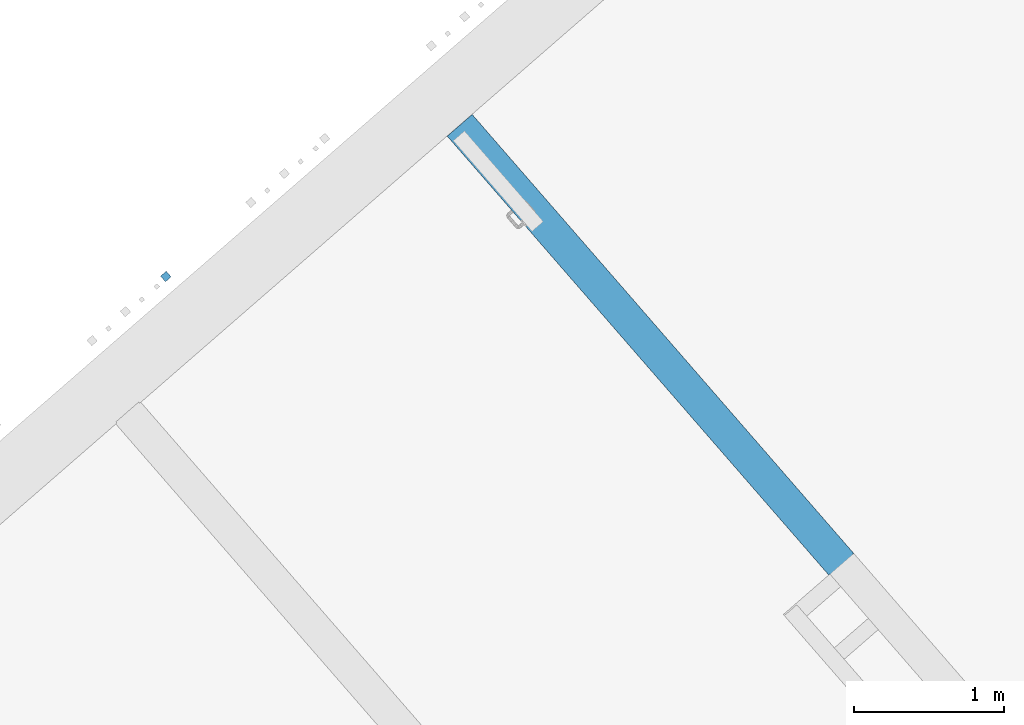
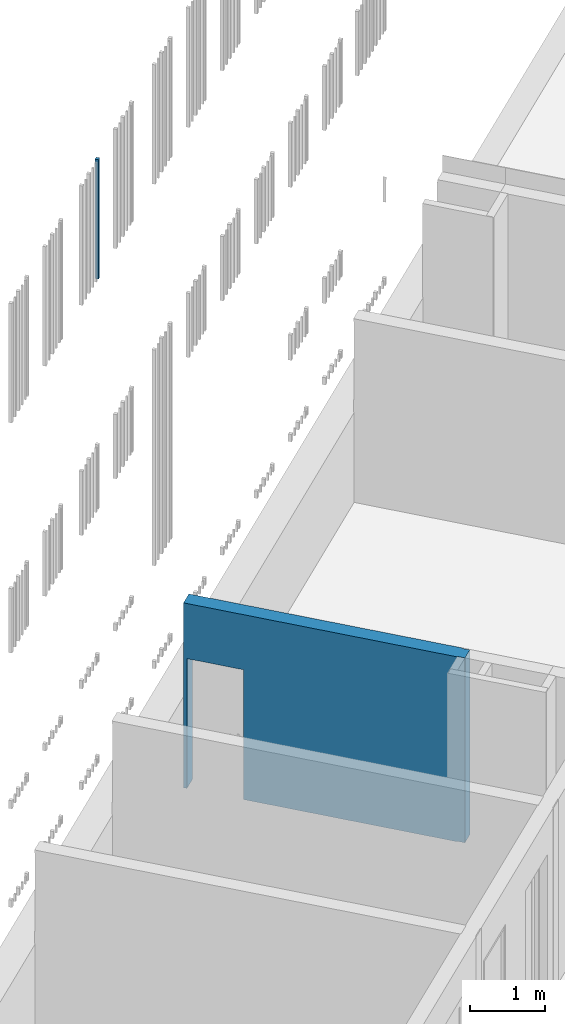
# One storey, part 54 of 124: 2 walls.
"""IFC2X3 building model written with IfcOpenShell, lengths in millimetres."""

from ifc_helpers import new_model, entity, si_unit, converted_unit, derived_unit, money_unit, direction, frame, origin_with_axes, place, context, subcontext, project, spatial, faceted_brep, material, material_list, type_object, element, save


model = new_model("IFC2X3")

# Units and contexts
model_context = context("Model", 3, precision=1e-05, world=origin_with_axes(), true_north=direction((0.0, 1.0)))
body_context = subcontext(model_context, "Body", "Model", "MODEL_VIEW")
ifc_project = project(units=[si_unit("LENGTHUNIT", "METRE", prefix="MILLI"), si_unit("AREAUNIT", "SQUARE_METRE"), si_unit("VOLUMEUNIT", "CUBIC_METRE"), converted_unit("PLANEANGLEUNIT", "DEGREE", entity("IfcPlaneAngleMeasure", 0.0174532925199), si_unit("PLANEANGLEUNIT", "RADIAN"), dimensions=[0, 0, 0, 0, 0, 0, 0]), si_unit("SOLIDANGLEUNIT", "STERADIAN"), money_unit("EUR"), converted_unit("TIMEUNIT", "Year", entity("IfcTimeMeasure", 31556926.0), si_unit("TIMEUNIT", "SECOND"), dimensions=[0, 0, 1, 0, 0, 0, 0]), si_unit("MASSUNIT", "GRAM", prefix="KILO"), si_unit("THERMODYNAMICTEMPERATUREUNIT", "DEGREE_CELSIUS"), si_unit("LUMINOUSINTENSITYUNIT", "LUMEN"), si_unit("ENERGYUNIT", "JOULE", prefix="MEGA"), derived_unit("THERMALCONDUCTANCEUNIT", [(si_unit("POWERUNIT", "WATT"), 1), (si_unit("LENGTHUNIT", "METRE"), -1), (si_unit("THERMODYNAMICTEMPERATUREUNIT", "KELVIN"), -1)]), derived_unit("SPECIFICHEATCAPACITYUNIT", [(si_unit("ENERGYUNIT", "JOULE"), 1), (si_unit("MASSUNIT", "GRAM", prefix="KILO"), -1), (si_unit("THERMODYNAMICTEMPERATUREUNIT", "KELVIN"), -1)]), derived_unit("MASSDENSITYUNIT", [(si_unit("MASSUNIT", "GRAM", prefix="KILO"), 1), (si_unit("VOLUMEUNIT", "CUBIC_METRE"), -1)])], contexts=[model_context])

# Site, building, storey
site_placement = place(None, origin_with_axes())
site = spatial("IfcSite", under=ifc_project, at=site_placement, Name="Site", CompositionType="ELEMENT")
building_placement = place(site_placement, origin_with_axes())
building = spatial("IfcBuilding", under=site, at=building_placement, Name="Building", CompositionType="ELEMENT")
storey_placement = place(building_placement, frame((0.0, 0.0, -1615.0), z_axis=(0.0, 0.0, 1.0), x_axis=(1.0, 0.0, 0.0)))
storey = spatial("IfcBuildingStorey", under=building, at=storey_placement, Name="0  korrus", CompositionType="ELEMENT", Elevation=-1615.0)

# Walls
ifc_material_1 = material(Name="Krohv - Lubjakivi")
ifc_material_2 = material(Name="Raudbetoon - Konstruktsioon")
ifc_material_list = material_list([ifc_material_1, ifc_material_2, ifc_material_1])
wall_type_1 = type_object("IfcWallType", Name="SS-10", PredefinedType="NOTDEFINED")
wall_1_placement = place(storey_placement, frame((152340.962336, 101771.412181, -20.0), z_axis=(0.0, 0.0, 1.0), x_axis=(0.656071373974, -0.754698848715, 0.0)))
element("IfcWall", 1, at=wall_1_placement, inside=storey, type_object=wall_type_1, material=ifc_material_list, Name="SS-10", context=body_context, shape_type="Brep", body=[
    faceted_brep([(49.0, 220.0, 2120.0), (49.0, 220.0, 20.0), (49.0, 220.0, 0.0), (0.0, 220.0, 0.0), (0.0, 220.0, 3020.0), (3869.00362787, 220.0, 3020.0), (3869.00362787, 220.0, 0.0), (849.0, 220.0, 0.0), (849.0, 220.0, 20.0), (849.0, 220.0, 2120.0), (49.0, 210.0, 2120.0), (49.0, 210.0, 20.0), (49.0, 210.0, 0.0), (0.0, 210.0, 0.0), (0.0, 210.0, 3020.0), (3869.00346429, 210.0, 3020.0), (3869.00346429, 210.0, 0.0), (849.0, 210.0, 0.0), (849.0, 210.0, 20.0), (849.0, 210.0, 2120.0)], [[[0, 1, 2, 3, 4, 5, 6, 7, 8, 9]], [[1, 0, 10, 11]], [[1, 11, 12, 2]], [[12, 13, 3, 2]], [[3, 13, 14, 4]], [[5, 4, 14, 15]], [[6, 5, 15, 16]], [[7, 6, 16, 17]], [[18, 8, 7, 17]], [[9, 8, 18, 19]], [[0, 9, 19, 10]], [[19, 18, 17, 16, 15, 14, 13, 12, 11, 10]]]),
    faceted_brep([(849.0, 110.0, 20.0), (849.0, 9.99999999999, 20.0), (849.0, 9.99999999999, 2120.0), (849.0, 210.0, 2120.0), (849.0, 210.0, 20.0), (849.0, 210.0, 0.0), (849.0, 9.99999999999, 0.0), (3979.00019285, 9.99999999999, 0.0), (3979.00019285, 9.99999999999, 3020.0), (0.0, 9.99999999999, 3020.0), (0.0, 9.99999999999, 0.0), (49.0, 9.99999999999, 0.0), (49.0, 9.99999999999, 20.0), (49.0, 9.99999999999, 2120.0), (49.0, 210.0, 2120.0), (49.0, 210.0, 20.0), (49.0, 210.0, 0.0), (0.0, 210.0, 0.0), (0.0, 210.0, 3020.0), (3979.00346431, 210.0, 3020.0), (3979.00346431, 210.0, 0.0), (49.0, 110.0, 20.0)], [[[0, 1, 2, 3, 4]], [[1, 0, 4, 5, 6]], [[2, 1, 6, 7, 8, 9, 10, 11, 12, 13]], [[3, 2, 13, 14]], [[5, 4, 3, 14, 15, 16, 17, 18, 19, 20]], [[20, 7, 6, 5]], [[19, 8, 7, 20]], [[18, 9, 8, 19]], [[10, 9, 18, 17]], [[10, 17, 16, 11]], [[21, 12, 11, 16, 15]], [[13, 12, 21, 15, 14]]]),
    faceted_brep([(49.0, 10.0, 2120.0), (49.0, 10.0, 20.0), (49.0, 9.99999999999, 0.0), (0.0, 9.99999999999, 0.0), (0.0, 9.99999999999, 3020.0), (3869.00019284, 9.99999999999, 3020.0), (3869.00019284, 9.99999999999, 0.0), (849.0, 9.99999999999, 0.0), (849.0, 10.0, 20.0), (849.0, 10.0, 2120.0), (49.0, 0.0, 2120.0), (49.0, 0.0, 20.0), (49.0, 0.0, 0.0), (0.0, 0.0, 0.0), (0.0, 0.0, 3020.0), (3869.00002926, 0.0, 3020.0), (3869.00002926, 0.0, 0.0), (849.0, 0.0, 0.0), (849.0, 0.0, 20.0), (849.0, 0.0, 2120.0)], [[[0, 1, 2, 3, 4, 5, 6, 7, 8, 9]], [[1, 0, 10, 11]], [[1, 11, 12, 2]], [[12, 13, 3, 2]], [[3, 13, 14, 4]], [[5, 4, 14, 15]], [[6, 5, 15, 16]], [[7, 6, 16, 17]], [[18, 8, 7, 17]], [[9, 8, 18, 19]], [[0, 9, 19, 10]], [[19, 18, 17, 16, 15, 14, 13, 12, 11, 10]]]),
])
ifc_material_3 = material(Name="Site specified")
wall_type_2 = type_object("IfcWallType", Name="Puitfassaadi ribistik", PredefinedType="NOTDEFINED")
wall_2_placement = place(storey_placement, frame((150469.574562, 100837.621401, 9530.0), z_axis=(0.0, 0.0, 1.0), x_axis=(0.754709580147, 0.656059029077, 0.0)))
element("IfcWall", 2, at=wall_2_placement, inside=storey, type_object=wall_type_2, material=ifc_material_3, Name="Site specified", context=body_context, shape_type="Brep", body=[
    faceted_brep([(25.0, 25.0, 1950.0), (25.0, 25.0, 0.0), (-25.0, 25.0, 0.0), (-25.0, 25.0, 1950.0), (25.0, -25.0, 1950.0), (25.0, -25.0, 0.0), (-25.0, -25.0, 0.0), (-25.0, -25.0, 1950.0)], [[[0, 1, 2, 3]], [[4, 5, 1, 0]], [[2, 1, 5, 6]], [[3, 2, 6, 7]], [[4, 0, 3, 7]], [[7, 6, 5, 4]]]),
])

save(model, "model.ifc")
